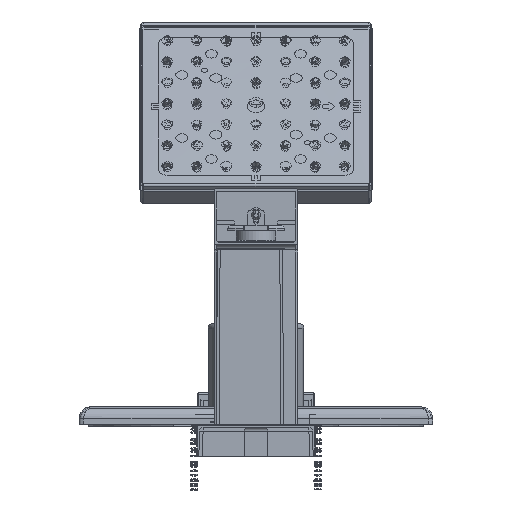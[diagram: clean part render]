
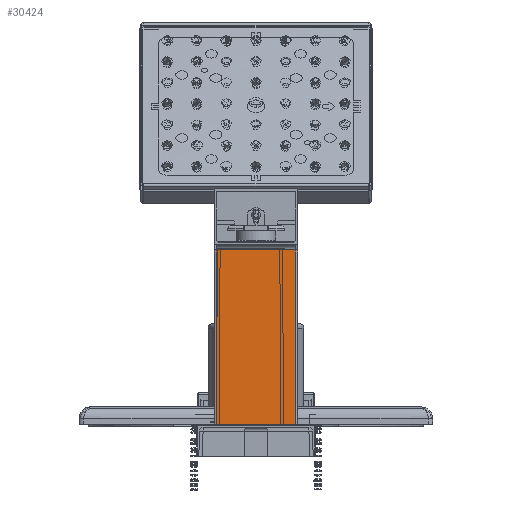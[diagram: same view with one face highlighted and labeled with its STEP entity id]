
A CAD part, front view. The second image highlights one B-rep face of the part: STEP entity #30424.
In plain terms, the highlighted planar face has unit normal (0, -1, 0).
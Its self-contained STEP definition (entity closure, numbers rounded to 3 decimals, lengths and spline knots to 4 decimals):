
#175 = EDGE_CURVE ( 'NONE', #54835, #19194, #37113, .T. ) ;
#803 = FACE_OUTER_BOUND ( 'NONE', #34496, .T. ) ;
#2100 = CARTESIAN_POINT ( 'NONE',  ( -0.8465, -22.3152, 0. ) ) ;
#3175 = CARTESIAN_POINT ( 'NONE',  ( -0.8465, -22.3152, 3.8189 ) ) ;
#3484 = LINE ( 'NONE', #3175, #5921 ) ;
#5921 = VECTOR ( 'NONE', #22671, 39.3701 ) ;
#6168 = DIRECTION ( 'NONE',  ( 0., 0., 1. ) ) ;
#6217 = VERTEX_POINT ( 'NONE', #45049 ) ;
#14127 = PLANE ( 'NONE',  #57517 ) ;
#15043 = DIRECTION ( 'NONE',  ( 0., -1., 0. ) ) ;
#19194 = VERTEX_POINT ( 'NONE', #2100 ) ;
#19683 = DIRECTION ( 'NONE',  ( 0., 0., -1. ) ) ;
#19747 = VECTOR ( 'NONE', #23141, 39.3701 ) ;
#20088 = LINE ( 'NONE', #23826, #26116 ) ;
#22671 = DIRECTION ( 'NONE',  ( 0., 0., -1. ) ) ;
#23141 = DIRECTION ( 'NONE',  ( -1., 0., 0. ) ) ;
#23826 = CARTESIAN_POINT ( 'NONE',  ( 0.8465, -22.3152, 3.8189 ) ) ;
#25215 = VERTEX_POINT ( 'NONE', #28430 ) ;
#26116 = VECTOR ( 'NONE', #6168, 39.3701 ) ;
#26539 = DIRECTION ( 'NONE',  ( -1., 0., 0. ) ) ;
#28430 = CARTESIAN_POINT ( 'NONE',  ( 0.8465, -22.3152, 3.7008 ) ) ;
#30424 = ADVANCED_FACE ( 'NONE', ( #803 ), #14127, .T. ) ;
#30970 = EDGE_CURVE ( 'NONE', #6217, #19194, #3484, .T. ) ;
#34496 = EDGE_LOOP ( 'NONE', ( #50224, #56958, #50849, #35183 ) ) ;
#35183 = ORIENTED_EDGE ( 'NONE', *, *, #58116, .T. ) ;
#36472 = LINE ( 'NONE', #55067, #41033 ) ;
#37113 = LINE ( 'NONE', #45808, #19747 ) ;
#40101 = CARTESIAN_POINT ( 'NONE',  ( 0.8465, -22.3152, 0. ) ) ;
#41033 = VECTOR ( 'NONE', #26539, 39.3701 ) ;
#45049 = CARTESIAN_POINT ( 'NONE',  ( -0.8465, -22.3152, 3.7008 ) ) ;
#45808 = CARTESIAN_POINT ( 'NONE',  ( -0.8858, -22.3152, 0. ) ) ;
#48426 = EDGE_CURVE ( 'NONE', #25215, #6217, #36472, .T. ) ;
#50224 = ORIENTED_EDGE ( 'NONE', *, *, #48426, .T. ) ;
#50849 = ORIENTED_EDGE ( 'NONE', *, *, #175, .F. ) ;
#51945 = CARTESIAN_POINT ( 'NONE',  ( -0.8858, -22.3152, 3.8189 ) ) ;
#54835 = VERTEX_POINT ( 'NONE', #40101 ) ;
#55067 = CARTESIAN_POINT ( 'NONE',  ( -0.8858, -22.3152, 3.7008 ) ) ;
#56958 = ORIENTED_EDGE ( 'NONE', *, *, #30970, .T. ) ;
#57517 = AXIS2_PLACEMENT_3D ( 'NONE', #51945, #15043, #19683 ) ;
#58116 = EDGE_CURVE ( 'NONE', #54835, #25215, #20088, .T. ) ;
